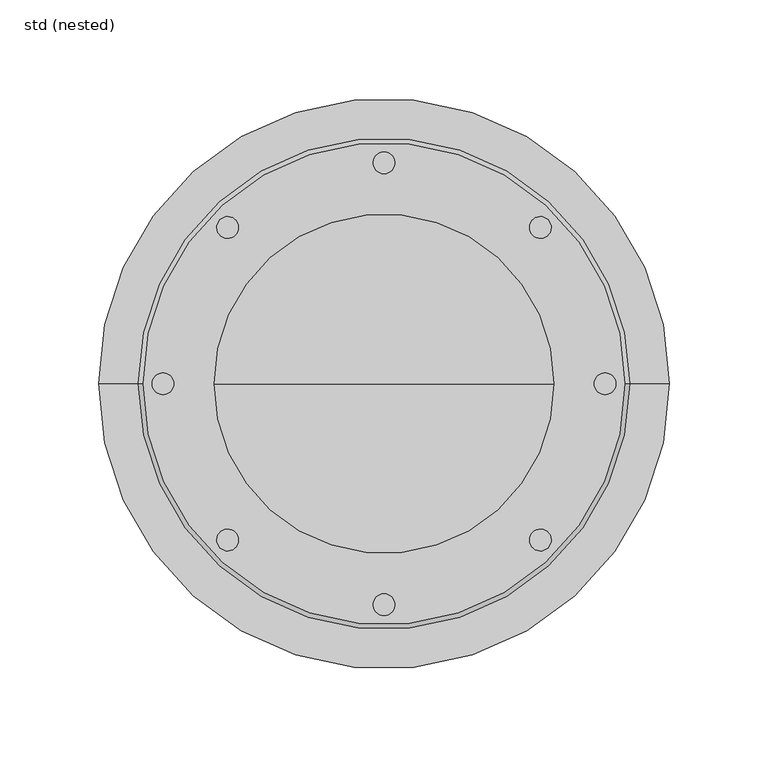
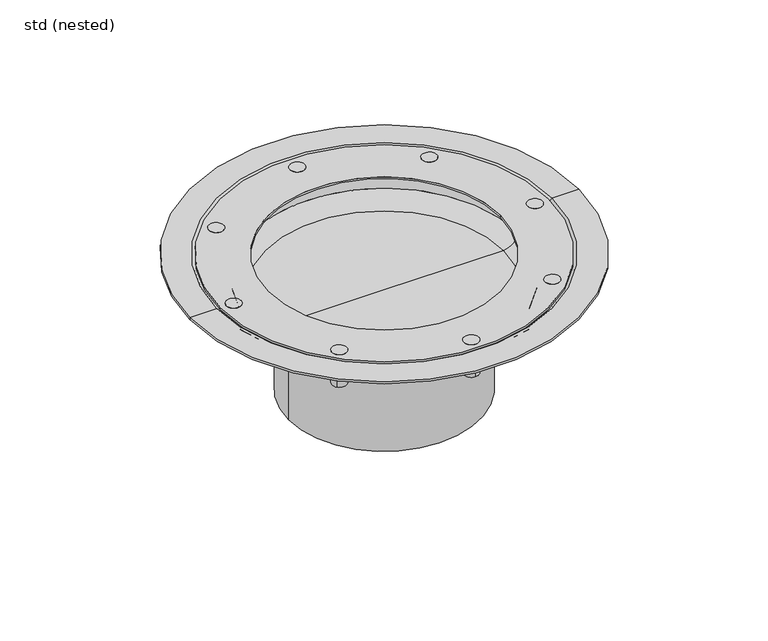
"""IFC4 building model written with IfcOpenShell, lengths in millimetres: sanitary terminal geometry, ZZZ_do not use_PF_GEN_UN_round telescopic gully top_ACO : std (nested)."""

from ifc_helpers import new_model, si_unit, point, frame, frame_2d, origin, origin_2d, place, context, project, spatial, polyline, circle_curve, ellipse_curve, trimmed, segment, composite_curve, outline, extrude, source, transform, mapped, element, save
from ifc_brep_helpers import plane_surface, cylinder_surface, revolved_surface, advanced_brep


def std_nested_275881f0(model_context):
    return source(origin(), model_context, "Body", "SolidModel", [
        extrude(outline(composite_curve([segment(trimmed(circle_curve(frame_2d((-79.1959595, -79.1959595)), 5.5), [point((-83.0850468, -83.0850468))], [point((-75.3068722, -75.3068722))], False, "CARTESIAN"), True, "CONTINUOUS"), segment(trimmed(circle_curve(frame_2d((-79.1959595, -79.1959595)), 5.5), [point((-75.3068722, -75.3068722))], [point((-83.0850468, -83.0850468))], False, "CARTESIAN"), True, "CONTINUOUS")], self_intersect=False)), frame((0.0, 0.0, -25.7), z_axis=(0.0, 0.0, 1.0), x_axis=(1.0, 0.0, 0.0)), (0.0, 0.0, 1.0), 25.7),
        extrude(outline(composite_curve([segment(trimmed(circle_curve(frame_2d((-112.0, 0.0)), 5.5), [point((-117.5, 0.0))], [point((-106.5, 0.0))], False, "CARTESIAN"), True, "CONTINUOUS"), segment(trimmed(circle_curve(frame_2d((-112.0, 0.0)), 5.5), [point((-106.5, 0.0))], [point((-117.5, 0.0))], False, "CARTESIAN"), True, "CONTINUOUS")], self_intersect=False)), frame((0.0, 0.0, -25.7), z_axis=(0.0, 0.0, 1.0), x_axis=(1.0, 0.0, 0.0)), (0.0, 0.0, 1.0), 25.7),
        extrude(outline(composite_curve([segment(trimmed(circle_curve(frame_2d((-79.1959595, 79.1959595)), 5.5), [point((-83.0850468, 83.0850468))], [point((-75.3068722, 75.3068722))], False, "CARTESIAN"), True, "CONTINUOUS"), segment(trimmed(circle_curve(frame_2d((-79.1959595, 79.1959595)), 5.5), [point((-75.3068722, 75.3068722))], [point((-83.0850468, 83.0850468))], False, "CARTESIAN"), True, "CONTINUOUS")], self_intersect=False)), frame((0.0, 0.0, -25.7), z_axis=(0.0, 0.0, 1.0), x_axis=(1.0, 0.0, 0.0)), (0.0, 0.0, 1.0), 25.7),
        extrude(outline(composite_curve([segment(trimmed(circle_curve(frame_2d((0.0, 112.0)), 5.5), [point((0.0, 117.5))], [point((0.0, 106.5))], False, "CARTESIAN"), True, "CONTINUOUS"), segment(trimmed(circle_curve(frame_2d((0.0, 112.0)), 5.5), [point((0.0, 106.5))], [point((0.0, 117.5))], False, "CARTESIAN"), True, "CONTINUOUS")], self_intersect=False)), frame((0.0, 0.0, -25.7), z_axis=(0.0, 0.0, 1.0), x_axis=(1.0, 0.0, 0.0)), (0.0, 0.0, 1.0), 25.7),
        extrude(outline(composite_curve([segment(trimmed(circle_curve(frame_2d((79.1959595, 79.1959595)), 5.5), [point((83.0850468, 83.0850468))], [point((75.3068722, 75.3068722))], False, "CARTESIAN"), True, "CONTINUOUS"), segment(trimmed(circle_curve(frame_2d((79.1959595, 79.1959595)), 5.5), [point((75.3068722, 75.3068722))], [point((83.0850468, 83.0850468))], False, "CARTESIAN"), True, "CONTINUOUS")], self_intersect=False)), frame((0.0, 0.0, -25.7), z_axis=(0.0, 0.0, 1.0), x_axis=(1.0, 0.0, 0.0)), (0.0, 0.0, 1.0), 25.7),
        extrude(outline(composite_curve([segment(trimmed(circle_curve(frame_2d((112.0, 0.0)), 5.5), [point((117.5, 0.0))], [point((106.5, 0.0))], False, "CARTESIAN"), True, "CONTINUOUS"), segment(trimmed(circle_curve(frame_2d((112.0, 0.0)), 5.5), [point((106.5, 0.0))], [point((117.5, 0.0))], False, "CARTESIAN"), True, "CONTINUOUS")], self_intersect=False)), frame((0.0, 0.0, -25.7), z_axis=(0.0, 0.0, 1.0), x_axis=(1.0, 0.0, 0.0)), (0.0, 0.0, 1.0), 25.7),
        extrude(outline(composite_curve([segment(trimmed(circle_curve(frame_2d((79.1959595, -79.1959595)), 5.5), [point((83.0850468, -83.0850468))], [point((75.3068722, -75.3068722))], False, "CARTESIAN"), True, "CONTINUOUS"), segment(trimmed(circle_curve(frame_2d((79.1959595, -79.1959595)), 5.5), [point((75.3068722, -75.3068722))], [point((83.0850468, -83.0850468))], False, "CARTESIAN"), True, "CONTINUOUS")], self_intersect=False)), frame((0.0, 0.0, -25.7), z_axis=(0.0, 0.0, 1.0), x_axis=(1.0, 0.0, 0.0)), (0.0, 0.0, 1.0), 25.7),
        extrude(outline(composite_curve([segment(trimmed(circle_curve(frame_2d((0.0, -112.0)), 5.5), [point((0.0, -117.5))], [point((0.0, -106.5))], False, "CARTESIAN"), True, "CONTINUOUS"), segment(trimmed(circle_curve(frame_2d((0.0, -112.0)), 5.5), [point((0.0, -106.5))], [point((0.0, -117.5))], False, "CARTESIAN"), True, "CONTINUOUS")], self_intersect=False)), frame((0.0, 0.0, -25.7), z_axis=(0.0, 0.0, 1.0), x_axis=(1.0, 0.0, 0.0)), (0.0, 0.0, 1.0), 25.7),
        advanced_brep(
        [(144.5, 0.0, -1.5), (-144.5, 0.0, -1.5), (-144.5, 0.0, 0.0), (144.5, 0.0, 0.0), (125.0, 0.0, -1.5), (-125.0, 0.0, -1.5), (121.0, 0.0, -5.5), (-121.0, 0.0, -5.5), (100.25, 0.0, -5.5), (-100.25, 0.0, -5.5), (100.25, 0.0, -18.0), (-100.25, 0.0, -18.0), (88.25, 0.0, -30.0), (-88.25, 0.0, -30.0), (78.5, 0.0, -30.0), (-78.5, 0.0, -30.0), (88.25, 0.0, -28.5), (-88.25, 0.0, -28.5), (0.0, 0.0, -28.5), (98.75, 0.0, -18.0), (-98.75, 0.0, -18.0), (98.75, 0.0, -4.0), (-98.75, 0.0, -4.0), (120.3786797, 0.0, -4.0), (-120.3786797, 0.0, -4.0), (124.3786797, 0.0, 0.0), (-124.3786797, 0.0, 0.0), (-78.5, 0.0, -41.5), (78.5, 0.0, -41.5)],
        [
            (0, 1, circle_curve(frame((0.0, 0.0, -1.5), z_axis=(0.0, 0.0, 1.0), x_axis=(-1.0, 0.0, 0.0)), 144.5)),
            (1, 2),
            (2, 3, circle_curve(frame((0.0, 0.0, 0.0), z_axis=(0.0, 0.0, -1.0), x_axis=(-1.0, 0.0, 0.0)), 144.5)),
            (3, 0),
            (1, 0, circle_curve(frame((0.0, 0.0, -1.5), z_axis=(0.0, 0.0, 1.0), x_axis=(-1.0, 0.0, 0.0)), 144.5)),
            (3, 2, circle_curve(frame((0.0, 0.0, 0.0), z_axis=(0.0, 0.0, -1.0), x_axis=(-1.0, 0.0, 0.0)), 144.5)),
            (0, 4),
            (4, 5, circle_curve(frame((0.0, 0.0, -1.5), z_axis=(0.0, 0.0, 1.0), x_axis=(-1.0, 0.0, 0.0)), 125.0)),
            (5, 1),
            (5, 4, circle_curve(frame((0.0, 0.0, -1.5), z_axis=(0.0, 0.0, 1.0), x_axis=(-1.0, 0.0, 0.0)), 125.0)),
            (4, 6),
            (6, 7, circle_curve(frame((0.0, 0.0, -5.5), z_axis=(0.0, 0.0, 1.0), x_axis=(-1.0, 0.0, 0.0)), 121.0)),
            (7, 5),
            (7, 6, circle_curve(frame((0.0, 0.0, -5.5), z_axis=(0.0, 0.0, 1.0), x_axis=(-1.0, 0.0, 0.0)), 121.0)),
            (6, 8),
            (8, 9, circle_curve(frame((0.0, 0.0, -5.5), z_axis=(0.0, 0.0, 1.0), x_axis=(-1.0, 0.0, 0.0)), 100.25)),
            (9, 7),
            (9, 8, circle_curve(frame((0.0, 0.0, -5.5), z_axis=(0.0, 0.0, 1.0), x_axis=(-1.0, 0.0, 0.0)), 100.25)),
            (8, 10),
            (10, 11, circle_curve(frame((0.0, 0.0, -18.0), z_axis=(0.0, 0.0, 1.0), x_axis=(-1.0, 0.0, 0.0)), 100.25)),
            (11, 9),
            (11, 10, circle_curve(frame((0.0, 0.0, -18.0), z_axis=(0.0, 0.0, 1.0), x_axis=(-1.0, 0.0, 0.0)), 100.25)),
            (10, 12, circle_curve(frame((88.25, 0.0, -18.0), z_axis=(0.0, 1.0, 0.0), x_axis=(-1.0, 0.0, 0.0)), 12.0)),
            (12, 13, circle_curve(frame((0.0, 0.0, -30.0), z_axis=(0.0, 0.0, 1.0), x_axis=(-1.0, 0.0, 0.0)), 88.25)),
            (13, 11, circle_curve(frame((-88.25, 0.0, -18.0), z_axis=(0.0, 1.0, 0.0), x_axis=(1.0, 0.0, 0.0)), 12.0)),
            (13, 12, circle_curve(frame((0.0, 0.0, -30.0), z_axis=(0.0, 0.0, 1.0), x_axis=(-1.0, 0.0, 0.0)), 88.25)),
            (12, 14),
            (14, 15, circle_curve(frame((0.0, 0.0, -30.0), z_axis=(0.0, 0.0, 1.0), x_axis=(1.0, 0.0, 0.0)), 78.5)),
            (15, 13),
            (15, 14, circle_curve(frame((0.0, 0.0, -30.0), z_axis=(0.0, 0.0, 1.0), x_axis=(1.0, 0.0, 0.0)), 78.5)),
            (16, 17, circle_curve(frame((0.0, 0.0, -28.5), z_axis=(0.0, 0.0, 1.0), x_axis=(-1.0, 0.0, 0.0)), 88.25)),
            (17, 18),
            (18, 16),
            (17, 16, circle_curve(frame((0.0, 0.0, -28.5), z_axis=(0.0, 0.0, 1.0), x_axis=(-1.0, 0.0, 0.0)), 88.25)),
            (16, 19, circle_curve(frame((88.25, 0.0, -18.0), z_axis=(0.0, -1.0, 0.0), x_axis=(-1.0, 0.0, 0.0)), 10.5)),
            (19, 20, circle_curve(frame((0.0, 0.0, -18.0), z_axis=(0.0, 0.0, 1.0), x_axis=(-1.0, 0.0, 0.0)), 98.75)),
            (20, 17, circle_curve(frame((-88.25, 0.0, -18.0), z_axis=(0.0, -1.0, 0.0), x_axis=(1.0, 0.0, 0.0)), 10.5)),
            (20, 19, circle_curve(frame((0.0, 0.0, -18.0), z_axis=(0.0, 0.0, 1.0), x_axis=(-1.0, 0.0, 0.0)), 98.75)),
            (19, 21),
            (21, 22, circle_curve(frame((0.0, 0.0, -4.0), z_axis=(0.0, 0.0, 1.0), x_axis=(-1.0, 0.0, 0.0)), 98.75)),
            (22, 20),
            (22, 21, circle_curve(frame((0.0, 0.0, -4.0), z_axis=(0.0, 0.0, 1.0), x_axis=(-1.0, 0.0, 0.0)), 98.75)),
            (21, 23),
            (23, 24, circle_curve(frame((0.0, 0.0, -4.0), z_axis=(0.0, 0.0, 1.0), x_axis=(-1.0, 0.0, 0.0)), 120.3786797)),
            (24, 22),
            (24, 23, circle_curve(frame((0.0, 0.0, -4.0), z_axis=(0.0, 0.0, 1.0), x_axis=(-1.0, 0.0, 0.0)), 120.3786797)),
            (23, 25),
            (25, 26, circle_curve(frame((0.0, 0.0, 0.0), z_axis=(0.0, 0.0, 1.0), x_axis=(-1.0, 0.0, 0.0)), 124.3786797)),
            (26, 24),
            (26, 25, circle_curve(frame((0.0, 0.0, 0.0), z_axis=(0.0, 0.0, 1.0), x_axis=(-1.0, 0.0, 0.0)), 124.3786797)),
            (2, 26),
            (25, 3),
            (27, 28, circle_curve(frame((0.0, 0.0, -41.5), z_axis=(0.0, 0.0, -1.0), x_axis=(1.0, 0.0, 0.0)), 78.5)),
            (28, 27, circle_curve(frame((0.0, 0.0, -41.5), z_axis=(0.0, 0.0, -1.0), x_axis=(1.0, 0.0, 0.0)), 78.5)),
            (28, 14),
            (15, 27),
        ],
        [
            cylinder_surface(frame((0.0, 0.0, 260.0), z_axis=(0.0, 0.0, -1.0), x_axis=(-1.0, 0.0, 0.0)), 144.5),
            plane_surface(frame((0.0, 0.0, -1.5), z_axis=(0.0, 0.0, -1.0), x_axis=(-1.0, 0.0, 0.0))),
            revolved_surface(polyline([(-125.0, 0.0, -1.5), (-121.0, 0.0, -5.5)]), (0.0, 0.0, 260.0), (0.0, 0.0, -1.0)),
            plane_surface(frame((0.0, 0.0, -5.5), z_axis=(0.0, 0.0, -1.0), x_axis=(-1.0, 0.0, 0.0))),
            cylinder_surface(frame((0.0, 0.0, 260.0), z_axis=(0.0, 0.0, -1.0), x_axis=(-1.0, 0.0, 0.0)), 100.25),
            revolved_surface(trimmed(ellipse_curve(frame((-88.25, 0.0, -18.0), z_axis=(0.0, -1.0, 0.0), x_axis=(1.0, 0.0, 0.0)), 12.0, 12.0), [point((-100.25, 0.0, -18.0))], [point((-88.25, 0.0, -30.0))], True, "CARTESIAN"), (0.0, 0.0, 260.0), (0.0, 0.0, -1.0)),
            plane_surface(frame((0.0, 0.0, -30.0), z_axis=(0.0, 0.0, -1.0), x_axis=(-1.0, 0.0, 0.0))),
            plane_surface(frame((0.0, 0.0, -28.5), z_axis=(0.0, 0.0, 1.0), x_axis=(-1.0, 0.0, 0.0))),
            revolved_surface(trimmed(ellipse_curve(frame((-88.25, 0.0, -18.0), z_axis=(0.0, 1.0, 0.0), x_axis=(1.0, 0.0, 0.0)), 10.5, 10.5), [point((-88.25, 0.0, -28.5))], [point((-98.75, 0.0, -18.0))], True, "CARTESIAN"), (0.0, 0.0, 260.0), (0.0, 0.0, -1.0)),
            revolved_surface(polyline([(-98.75, 0.0, -18.0), (-98.75, 0.0, -4.0)]), (0.0, 0.0, 260.0), (0.0, 0.0, -1.0)),
            plane_surface(frame((0.0, 0.0, -4.0), z_axis=(0.0, 0.0, 1.0), x_axis=(-1.0, 0.0, 0.0))),
            revolved_surface(polyline([(-120.3786797, 0.0, -4.0), (-124.3786797, 0.0, 0.0)]), (0.0, 0.0, 260.0), (0.0, 0.0, -1.0)),
            plane_surface(frame((0.0, 0.0, 0.0), z_axis=(0.0, 0.0, 1.0), x_axis=(-1.0, 0.0, 0.0))),
            plane_surface(frame((78.5, 0.0, -41.5), z_axis=(0.0, 0.0, -1.0), x_axis=(0.0, -1.0, 0.0))),
            cylinder_surface(frame((0.0, 0.0, -41.5), z_axis=(0.0, 0.0, 1.0), x_axis=(1.0, 0.0, 0.0)), 78.5),
        ],
        [
            (0, [[1, 2, 3, 4]]),
            (0, [[-2, 5, -4, 6]]),
            (1, [[-1, 7, 8, 9]]),
            (1, [[-5, -9, 10, -7]]),
            (2, [[-8, 11, 12, 13]]),
            (2, [[-10, -13, 14, -11]]),
            (3, [[-12, 15, 16, 17]]),
            (3, [[-14, -17, 18, -15]]),
            (4, [[-16, 19, 20, 21]]),
            (4, [[-18, -21, 22, -19]]),
            (5, [[-20, 23, 24, 25]]),
            (5, [[-22, -25, 26, -23]]),
            (6, [[-24, 27, 28, 29]]),
            (6, [[-26, -29, 30, -27]]),
            (7, [[31, 32, 33]]),
            (7, [[-32, 34, -33]]),
            (8, [[-31, 35, 36, 37]]),
            (8, [[-34, -37, 38, -35]]),
            (9, [[-36, 39, 40, 41]]),
            (9, [[-38, -41, 42, -39]]),
            (10, [[-40, 43, 44, 45]]),
            (10, [[-42, -45, 46, -43]]),
            (11, [[-44, 47, 48, 49]]),
            (11, [[-46, -49, 50, -47]]),
            (12, [[-3, 51, -48, 52]]),
            (12, [[-6, -52, -50, -51]]),
            (13, [[53, 54]]),
            (14, [[-54, 55, -30, 56]]),
            (14, [[-53, -56, -28, -55]]),
        ],
    ),
        extrude(outline(composite_curve([segment(trimmed(circle_curve(origin_2d(), 122.0), [point((-122.0, 0.0))], [point((122.0, 0.0))], False, "CARTESIAN"), True, "CONTINUOUS"), segment(trimmed(circle_curve(origin_2d(), 122.0), [point((122.0, 0.0))], [point((-122.0, 0.0))], False, "CARTESIAN"), True, "CONTINUOUS")], self_intersect=False), holes=[composite_curve([segment(trimmed(circle_curve(origin_2d(), 86.0), [point((-86.0, 0.0))], [point((86.0, 0.0))], True, "CARTESIAN"), True, "CONTINUOUS"), segment(trimmed(circle_curve(origin_2d(), 86.0), [point((86.0, 0.0))], [point((-86.0, 0.0))], True, "CARTESIAN"), True, "CONTINUOUS")], self_intersect=False)]), frame((0.0, 0.0, -1.5), z_axis=(0.0, 0.0, 1.0), x_axis=(1.0, 0.0, 0.0)), (0.0, 0.0, 1.0), 1.5),
        extrude(outline(composite_curve([segment(trimmed(circle_curve(origin_2d(), 71.0), [point((-71.0, 0.0))], [point((71.0, 0.0))], False, "CARTESIAN"), True, "CONTINUOUS"), segment(trimmed(circle_curve(origin_2d(), 71.0), [point((71.0, 0.0))], [point((-71.0, 0.0))], False, "CARTESIAN"), True, "CONTINUOUS")], self_intersect=False)), frame((0.0, 0.0, -106.0), z_axis=(0.0, 0.0, 1.0), x_axis=(1.0, 0.0, 0.0)), (0.0, 0.0, 1.0), 64.5),
    ])


if __name__ == "__main__":
    model = new_model("IFC4")
    model_context = context("Model", 3, world=origin())
    ifc_project = project(units=[si_unit("LENGTHUNIT", "METRE", prefix="MILLI")], contexts=[model_context])
    site = spatial("IfcSite", under=ifc_project)
    building = spatial("IfcBuilding", under=site)
    placement = place(None, origin())
    std_nested_shape = std_nested_275881f0(model_context)
    element("IfcSanitaryTerminal", 1, ObjectType="ZZZ_do not use_PF_GEN_UN_round telescopic gully top_ACO : std (nested)", at=placement, inside=building, context=model_context, shape_type="MappedRepresentation", body=[
        mapped(std_nested_shape, transform((0.0, 0.0, 0.0), x_axis=(1.0, 0.0, 0.0), y_axis=(0.0, 1.0, 0.0), z_axis=(0.0, 0.0, 1.0))),
    ])
    save(model, "model.ifc")
